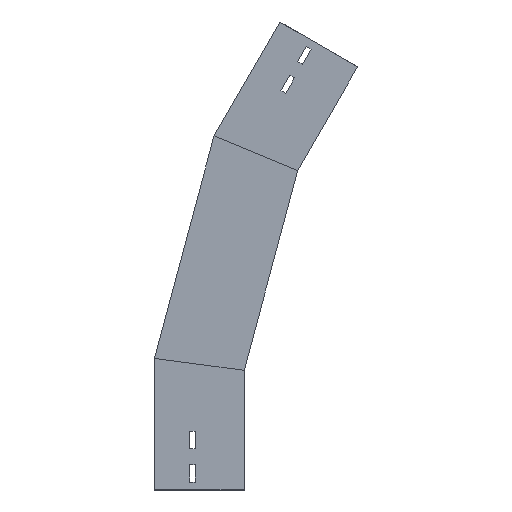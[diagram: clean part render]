
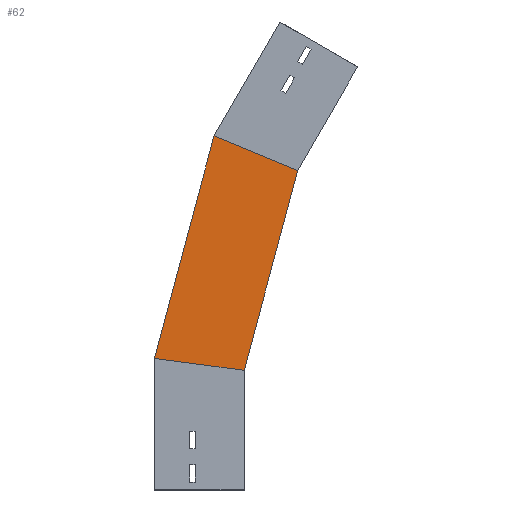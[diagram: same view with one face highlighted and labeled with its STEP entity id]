
A CAD part, left-side view. The second image highlights one B-rep face of the part: STEP entity #62.
In plain terms, the highlighted planar face has unit normal (-1, 0, 0) as drawn and (1, 0, 0) by its records, which use the part's own axes.
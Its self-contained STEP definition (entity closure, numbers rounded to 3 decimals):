
#45 = AXIS2_PLACEMENT_3D ( 'NONE', #1045, #754, #1394 ) ;
#62 = ADVANCED_FACE ( 'NONE', ( #1258 ), #1130, .T. ) ;
#76 = CARTESIAN_POINT ( 'NONE',  ( 0., -100.244, 386.419 ) ) ;
#83 = DIRECTION ( 'NONE',  ( 0., -0.924, -0.383 ) ) ;
#117 = CARTESIAN_POINT ( 'NONE',  ( 0., 112.909, 163.284 ) ) ;
#131 = CARTESIAN_POINT ( 'NONE',  ( 0., 0., 150. ) ) ;
#179 = ORIENTED_EDGE ( 'NONE', *, *, #228, .T. ) ;
#227 = EDGE_LOOP ( 'NONE', ( #1008, #179, #1316, #622 ) ) ;
#228 = EDGE_CURVE ( 'NONE', #1209, #1243, #1126, .T. ) ;
#252 = DIRECTION ( 'NONE',  ( 0., -0.259, 0.966 ) ) ;
#254 = VECTOR ( 'NONE', #83, 1000. ) ;
#264 = DIRECTION ( 'NONE',  ( 0., -0.991, -0.131 ) ) ;
#322 = EDGE_CURVE ( 'NONE', #1259, #1243, #907, .T. ) ;
#366 = CARTESIAN_POINT ( 'NONE',  ( 0., 112.5, 164.811 ) ) ;
#411 = CARTESIAN_POINT ( 'NONE',  ( 0., 4.243, 134.167 ) ) ;
#494 = CARTESIAN_POINT ( 'NONE',  ( 0., -19.411, 147.444 ) ) ;
#514 = LINE ( 'NONE', #494, #1459 ) ;
#524 = VERTEX_POINT ( 'NONE', #366 ) ;
#541 = EDGE_CURVE ( 'NONE', #524, #1209, #1260, .T. ) ;
#622 = ORIENTED_EDGE ( 'NONE', *, *, #874, .F. ) ;
#754 = DIRECTION ( 'NONE',  ( 1., 0., 0. ) ) ;
#874 = EDGE_CURVE ( 'NONE', #524, #1259, #514, .T. ) ;
#907 = LINE ( 'NONE', #411, #1139 ) ;
#998 = CARTESIAN_POINT ( 'NONE',  ( 0., 37.799, 443.598 ) ) ;
#1008 = ORIENTED_EDGE ( 'NONE', *, *, #541, .T. ) ;
#1041 = VECTOR ( 'NONE', #252, 1000. ) ;
#1045 = CARTESIAN_POINT ( 'NONE',  ( 0., 4.243, 134.167 ) ) ;
#1126 = LINE ( 'NONE', #76, #254 ) ;
#1130 = PLANE ( 'NONE',  #45 ) ;
#1139 = VECTOR ( 'NONE', #1314, 1000. ) ;
#1209 = VERTEX_POINT ( 'NONE', #998 ) ;
#1243 = VERTEX_POINT ( 'NONE', #1414 ) ;
#1258 = FACE_OUTER_BOUND ( 'NONE', #227, .T. ) ;
#1259 = VERTEX_POINT ( 'NONE', #131 ) ;
#1260 = LINE ( 'NONE', #117, #1041 ) ;
#1314 = DIRECTION ( 'NONE',  ( 0., -0.259, 0.966 ) ) ;
#1316 = ORIENTED_EDGE ( 'NONE', *, *, #322, .F. ) ;
#1394 = DIRECTION ( 'NONE',  ( 0., 0., -1. ) ) ;
#1414 = CARTESIAN_POINT ( 'NONE',  ( 0., -67.034, 400.175 ) ) ;
#1459 = VECTOR ( 'NONE', #264, 1000. ) ;
